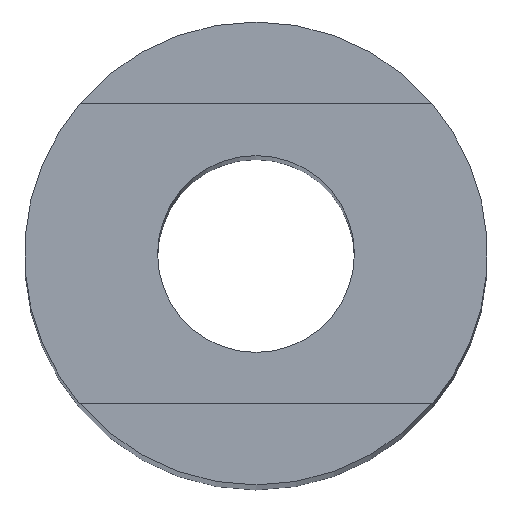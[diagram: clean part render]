
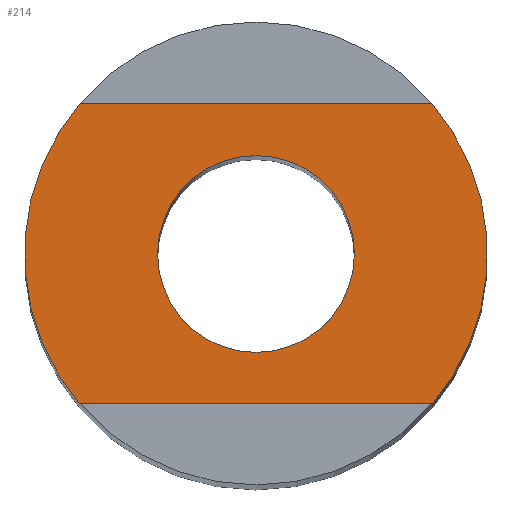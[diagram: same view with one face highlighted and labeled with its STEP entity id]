
A CAD part, top view. The second image highlights one B-rep face of the part: STEP entity #214.
In plain terms, the highlighted planar face has unit normal (0, 0, 1).
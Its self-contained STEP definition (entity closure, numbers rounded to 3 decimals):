
#17=FACE_BOUND('',#45,.T.);
#19=CIRCLE('',#241,4.);
#20=CIRCLE('',#242,4.);
#21=CIRCLE('',#243,1.7);
#32=FACE_OUTER_BOUND('',#44,.T.);
#44=EDGE_LOOP('',(#147,#148,#149,#150));
#45=EDGE_LOOP('',(#151));
#60=LINE('',#340,#78);
#61=LINE('',#346,#79);
#78=VECTOR('',#270,10.);
#79=VECTOR('',#277,10.);
#93=VERTEX_POINT('',#333);
#96=VERTEX_POINT('',#338);
#97=VERTEX_POINT('',#342);
#98=VERTEX_POINT('',#344);
#99=VERTEX_POINT('',#347);
#116=EDGE_CURVE('',#93,#96,#60,.T.);
#117=EDGE_CURVE('',#97,#93,#19,.T.);
#118=EDGE_CURVE('',#96,#98,#20,.T.);
#119=EDGE_CURVE('',#98,#97,#61,.T.);
#120=EDGE_CURVE('',#99,#99,#21,.T.);
#147=ORIENTED_EDGE('',*,*,#117,.T.);
#148=ORIENTED_EDGE('',*,*,#116,.T.);
#149=ORIENTED_EDGE('',*,*,#118,.T.);
#150=ORIENTED_EDGE('',*,*,#119,.T.);
#151=ORIENTED_EDGE('',*,*,#120,.F.);
#204=PLANE('',#240);
#214=ADVANCED_FACE('',(#32,#17),#204,.T.);
#240=AXIS2_PLACEMENT_3D('',#341,#271,#272);
#241=AXIS2_PLACEMENT_3D('',#343,#273,#274);
#242=AXIS2_PLACEMENT_3D('',#345,#275,#276);
#243=AXIS2_PLACEMENT_3D('',#348,#278,#279);
#270=DIRECTION('',(-1.,0.,0.));
#271=DIRECTION('center_axis',(0.,0.,1.));
#272=DIRECTION('ref_axis',(1.,0.,0.));
#273=DIRECTION('center_axis',(0.,0.,1.));
#274=DIRECTION('ref_axis',(0.,-1.,0.));
#275=DIRECTION('center_axis',(0.,0.,1.));
#276=DIRECTION('ref_axis',(0.,-1.,0.));
#277=DIRECTION('',(1.,0.,0.));
#278=DIRECTION('center_axis',(0.,0.,1.));
#279=DIRECTION('ref_axis',(1.,0.,0.));
#333=CARTESIAN_POINT('',(3.04,2.6,45.));
#338=CARTESIAN_POINT('',(-3.04,2.6,45.));
#340=CARTESIAN_POINT('',(-4.,2.6,45.));
#341=CARTESIAN_POINT('Origin',(0.,0.,45.));
#342=CARTESIAN_POINT('',(3.04,-2.6,45.));
#343=CARTESIAN_POINT('Origin',(0.,0.,45.));
#344=CARTESIAN_POINT('',(-3.04,-2.6,45.));
#345=CARTESIAN_POINT('Origin',(0.,0.,45.));
#346=CARTESIAN_POINT('',(4.,-2.6,45.));
#347=CARTESIAN_POINT('',(-1.7,0.,45.));
#348=CARTESIAN_POINT('Origin',(0.,0.,45.));
